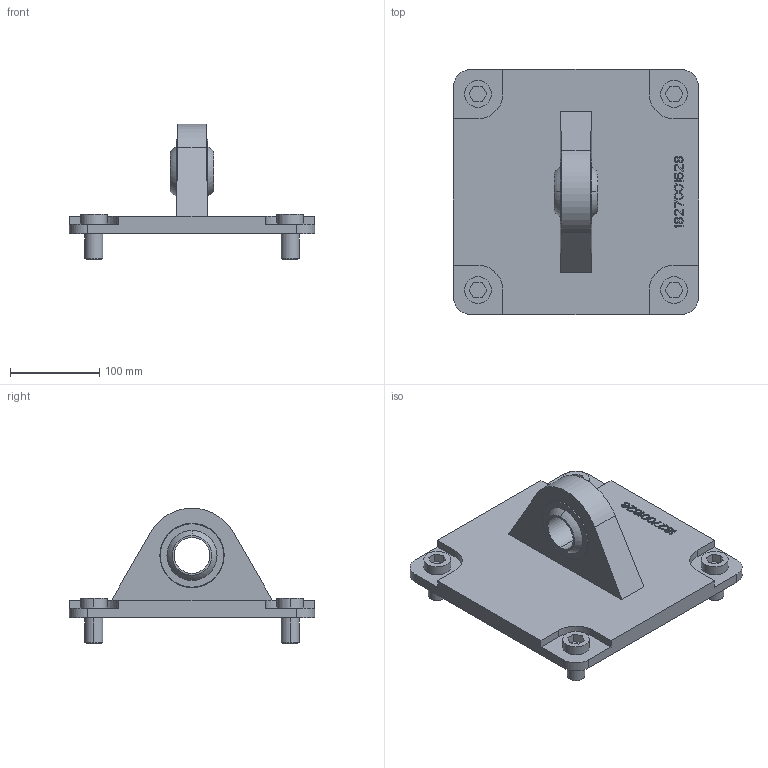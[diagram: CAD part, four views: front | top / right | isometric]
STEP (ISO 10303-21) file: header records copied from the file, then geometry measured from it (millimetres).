
FILE_DESCRIPTION((''),'2;1');
FILE_NAME('1827001628','2020-04-28T',('GIO1HC'),(''),'CREO PARAMETRIC BY PTC INC, 2016260','CREO PARAMETRIC BY PTC INC, 2016260','');
FILE_SCHEMA(('CONFIG_CONTROL_DESIGN'));
Length unit declared in the file: millimetre
Products named in the file (1): 1827001628
Bounding box: 275 x 275 x 151.92 mm (x, y, z)
Volume: 1761059.4 mm3; surface area: 221408.4 mm2
Topology: 1 solids, 1 shells, 489 faces, 1341 edges, 890 vertices
Faces by surface type: plane 438, cylinder 33, cone 8, torus 6, sphere 4
Entity records: 15496 total; most frequent: CARTESIAN_POINT 2908, ORIENTED_EDGE 2682, DIRECTION 2411, EDGE_CURVE 1341, VECTOR 1237, LINE 1237, VERTEX_POINT 890, AXIS2_PLACEMENT_3D 587
